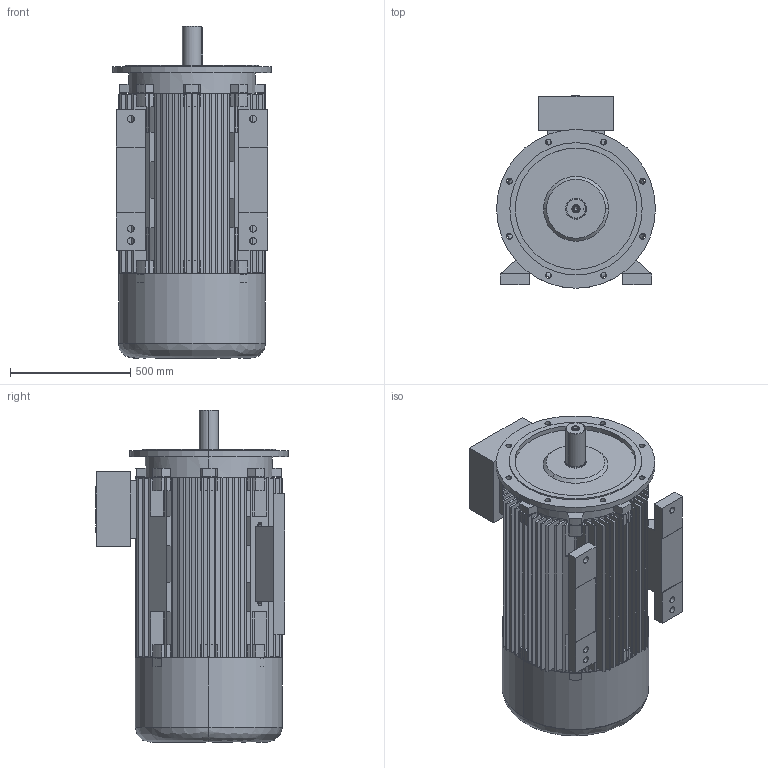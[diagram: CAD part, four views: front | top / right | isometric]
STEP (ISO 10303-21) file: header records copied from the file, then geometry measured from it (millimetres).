
FILE_DESCRIPTION (( 'STEP AP203' ), '1' );
FILE_NAME ('20.18383_C 7AZ 315LX -4, -6 B35 STANDK.STEP', '2018-05-18T12:19:04', ( '' ), ( '' ), 'SwSTEP 2.0', 'SolidWorks 2017', '' );
FILE_SCHEMA (( 'CONFIG_CONTROL_DESIGN' ));
Length unit declared in the file: millimetre
Products named in the file (1): 20.18383_C 7AZ 315LX -4, -6 B35 STANDK
Bounding box: 660 x 800 x 1380 mm (x, y, z)
Volume: 105113814.1 mm3; surface area: 12043246.6 mm2
Topology: 9 solids, 9 shells, 854 faces, 2292 edges, 1519 vertices
Faces by surface type: plane 680, cylinder 143, cone 18, bspline 13
Entity records: 27480 total; most frequent: CARTESIAN_POINT 5593, ORIENTED_EDGE 4580, DIRECTION 4452, EDGE_CURVE 2290, LINE 1720, VECTOR 1720, VERTEX_POINT 1519, AXIS2_PLACEMENT_3D 1366
